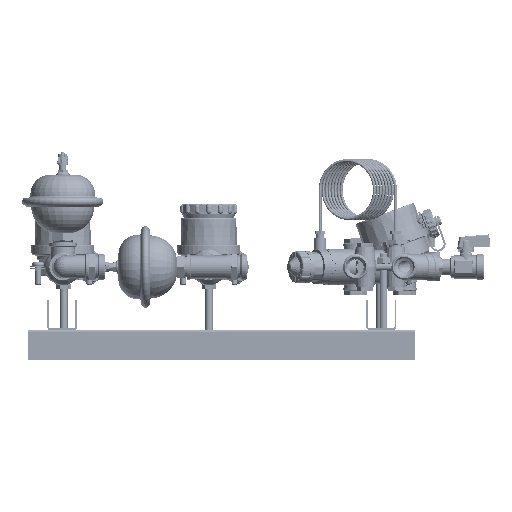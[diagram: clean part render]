
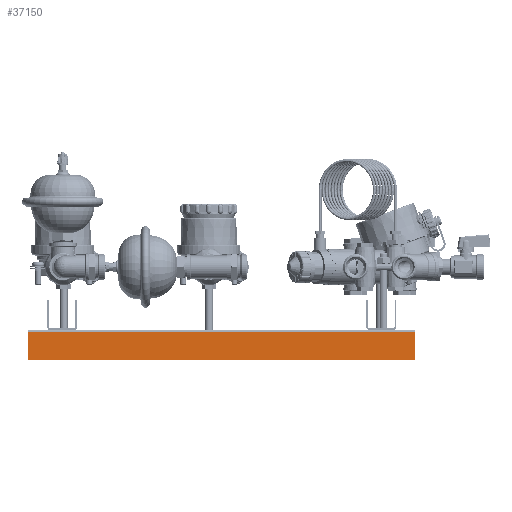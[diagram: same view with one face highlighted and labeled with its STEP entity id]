
A CAD part, front view. The second image highlights one B-rep face of the part: STEP entity #37150.
In plain terms, the highlighted planar face has unit normal (0, -1, 0) as drawn and (1, 0, 0) by its records, which use the part's own axes.
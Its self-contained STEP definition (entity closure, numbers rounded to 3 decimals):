
#37150=ADVANCED_FACE('',(#201135),#201137,.T.);
#201135=FACE_BOUND('',#201136,.T.);
#201136=EDGE_LOOP('',(#298813,#298814,#298815,#298816));
#201137=PLANE('',#201138);
#201138=AXIS2_PLACEMENT_3D('',#201139,#201140,#201141);
#201139=CARTESIAN_POINT('',(15.5,-400.,-2.5));
#201140=DIRECTION('',(1.,0.,0.));
#201141=DIRECTION('',(0.,0.,-1.));
#298813=ORIENTED_EDGE('',*,*,#348394,.T.);
#298814=ORIENTED_EDGE('',*,*,#348422,.T.);
#298815=ORIENTED_EDGE('',*,*,#348412,.F.);
#298816=ORIENTED_EDGE('',*,*,#348419,.F.);
#348394=EDGE_CURVE('',#410920,#410917,#410921,.T.);
#348412=EDGE_CURVE('',#410949,#410951,#410952,.T.);
#348419=EDGE_CURVE('',#410920,#410949,#410959,.T.);
#348422=EDGE_CURVE('',#410917,#410951,#410962,.T.);
#410917=VERTEX_POINT('',#687549);
#410920=VERTEX_POINT('',#687554);
#410921=LINE('',#687555,#687556);
#410949=VERTEX_POINT('',#687624);
#410951=VERTEX_POINT('',#687629);
#410952=LINE('',#687630,#687631);
#410959=LINE('',#687651,#687652);
#410962=LINE('',#687660,#687661);
#687549=CARTESIAN_POINT('',(15.5,-400.,-31.2));
#687554=CARTESIAN_POINT('',(15.5,-400.,-2.5));
#687555=CARTESIAN_POINT('',(15.5,-400.,-2.5));
#687556=VECTOR('',#687557,1.);
#687557=DIRECTION('',(0.,0.,-1.));
#687624=CARTESIAN_POINT('',(15.5,0.,-2.5));
#687629=CARTESIAN_POINT('',(15.5,0.,-31.2));
#687630=CARTESIAN_POINT('',(15.5,0.,-2.5));
#687631=VECTOR('',#687632,1.);
#687632=DIRECTION('',(0.,0.,-1.));
#687651=CARTESIAN_POINT('',(15.5,-400.,-2.5));
#687652=VECTOR('',#687653,1.);
#687653=DIRECTION('',(0.,1.,0.));
#687660=CARTESIAN_POINT('',(15.5,-400.,-31.2));
#687661=VECTOR('',#687662,1.);
#687662=DIRECTION('',(0.,1.,0.));
